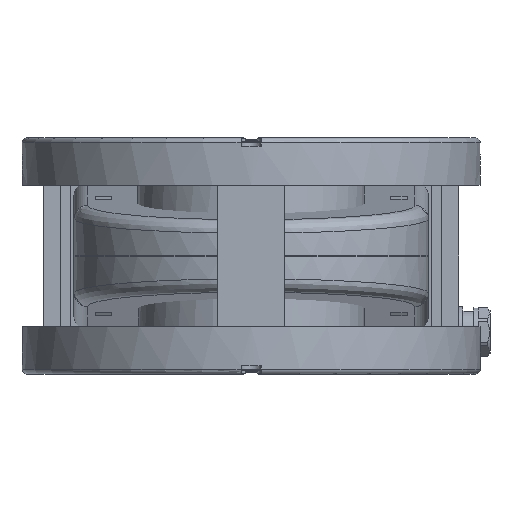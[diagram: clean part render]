
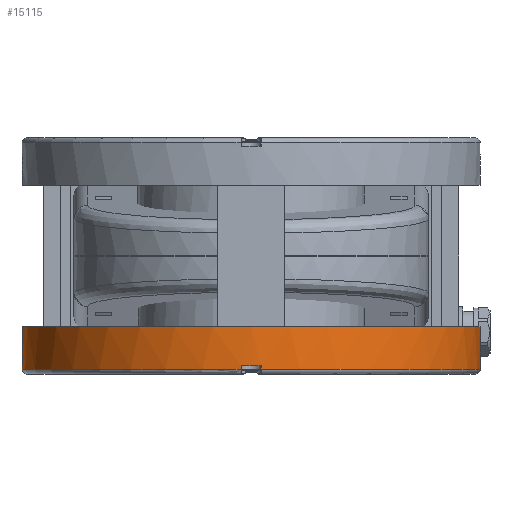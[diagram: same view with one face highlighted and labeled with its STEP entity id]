
A CAD part, front view. The second image highlights one B-rep face of the part: STEP entity #15115.
In plain terms, the highlighted cylindrical face has radius 67.9 mm (diameter 135.8 mm), a full revolution.
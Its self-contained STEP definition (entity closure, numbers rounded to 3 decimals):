
#7762=CYLINDRICAL_SURFACE('',#39519,67.9);
#8419=CIRCLE('',#39513,67.9);
#8420=CIRCLE('',#39515,67.9);
#8421=CIRCLE('',#39516,67.9);
#8422=CIRCLE('',#39517,67.9);
#8423=CIRCLE('',#39518,67.9);
#9348=ELLIPSE('',#39514,68.159,67.9);
#10021=LINE('',#53691,#12113);
#10022=LINE('',#53695,#12114);
#10023=LINE('',#53699,#12115);
#10024=LINE('',#53703,#12116);
#12113=VECTOR('',#43843,1.);
#12114=VECTOR('',#43846,1.);
#12115=VECTOR('',#43849,1.);
#12116=VECTOR('',#43852,1.);
#13877=FACE_BOUND('',#19391,.T.);
#13878=FACE_BOUND('',#19392,.T.);
#15115=ADVANCED_FACE('',(#13877,#13878),#7762,.T.);
#19391=EDGE_LOOP('',(#23453,#23454));
#19392=EDGE_LOOP('',(#23455,#23456,#23457,#23458,#23459,#23460,#23461,#23462));
#23453=ORIENTED_EDGE('',*,*,#34360,.F.);
#23454=ORIENTED_EDGE('',*,*,#34361,.T.);
#23455=ORIENTED_EDGE('',*,*,#34362,.F.);
#23456=ORIENTED_EDGE('',*,*,#34363,.T.);
#23457=ORIENTED_EDGE('',*,*,#34364,.T.);
#23458=ORIENTED_EDGE('',*,*,#34365,.T.);
#23459=ORIENTED_EDGE('',*,*,#34366,.F.);
#23460=ORIENTED_EDGE('',*,*,#34367,.T.);
#23461=ORIENTED_EDGE('',*,*,#34368,.T.);
#23462=ORIENTED_EDGE('',*,*,#34369,.T.);
#30874=VERTEX_POINT('',#53685);
#30875=VERTEX_POINT('',#53686);
#30876=VERTEX_POINT('',#53689);
#30877=VERTEX_POINT('',#53690);
#30878=VERTEX_POINT('',#53692);
#30879=VERTEX_POINT('',#53694);
#30880=VERTEX_POINT('',#53696);
#30881=VERTEX_POINT('',#53698);
#30882=VERTEX_POINT('',#53700);
#30883=VERTEX_POINT('',#53702);
#34360=EDGE_CURVE('',#30874,#30875,#8419,.T.);
#34361=EDGE_CURVE('',#30874,#30875,#9348,.T.);
#34362=EDGE_CURVE('',#30876,#30877,#8420,.T.);
#34363=EDGE_CURVE('',#30876,#30878,#10021,.T.);
#34364=EDGE_CURVE('',#30878,#30879,#8421,.T.);
#34365=EDGE_CURVE('',#30879,#30880,#10022,.T.);
#34366=EDGE_CURVE('',#30881,#30880,#8422,.T.);
#34367=EDGE_CURVE('',#30881,#30882,#10023,.T.);
#34368=EDGE_CURVE('',#30882,#30883,#8423,.T.);
#34369=EDGE_CURVE('',#30883,#30877,#10024,.T.);
#39513=AXIS2_PLACEMENT_3D('',#53684,#43837,#43838);
#39514=AXIS2_PLACEMENT_3D('',#53687,#43839,#43840);
#39515=AXIS2_PLACEMENT_3D('',#53688,#43841,#43842);
#39516=AXIS2_PLACEMENT_3D('',#53693,#43844,#43845);
#39517=AXIS2_PLACEMENT_3D('',#53697,#43847,#43848);
#39518=AXIS2_PLACEMENT_3D('',#53701,#43850,#43851);
#39519=AXIS2_PLACEMENT_3D('',#53704,#43853,#43854);
#43837=DIRECTION('',(1.,0.,0.));
#43838=DIRECTION('',(0.,1.,0.));
#43839=DIRECTION('',(-0.996,-0.087,0.));
#43840=DIRECTION('',(0.087,-0.996,0.));
#43841=DIRECTION('',(-1.,0.,0.));
#43842=DIRECTION('',(0.,0.,-1.));
#43843=DIRECTION('',(-1.,0.,0.));
#43844=DIRECTION('',(1.,0.,0.));
#43845=DIRECTION('',(0.,1.,0.));
#43846=DIRECTION('',(1.,0.,0.));
#43847=DIRECTION('',(-1.,0.,0.));
#43848=DIRECTION('',(0.,0.,-1.));
#43849=DIRECTION('',(-1.,0.,0.));
#43850=DIRECTION('',(1.,0.,0.));
#43851=DIRECTION('',(0.,1.,0.));
#43852=DIRECTION('',(1.,0.,0.));
#43853=DIRECTION('',(1.,0.,0.));
#43854=DIRECTION('',(0.,1.,0.));
#53684=CARTESIAN_POINT('',(14.,0.,0.));
#53685=CARTESIAN_POINT('',(14.,61.784,28.163));
#53686=CARTESIAN_POINT('',(14.,61.784,-28.163));
#53687=CARTESIAN_POINT('',(19.405,0.,0.));
#53688=CARTESIAN_POINT('',(2.5,0.,0.));
#53689=CARTESIAN_POINT('',(2.5,67.834,3.));
#53690=CARTESIAN_POINT('',(2.5,67.834,-3.));
#53691=CARTESIAN_POINT('',(21.4,67.834,3.));
#53692=CARTESIAN_POINT('',(1.5,67.834,3.));
#53693=CARTESIAN_POINT('',(1.5,0.,0.));
#53694=CARTESIAN_POINT('',(1.5,-67.834,3.));
#53695=CARTESIAN_POINT('',(21.4,-67.834,3.));
#53696=CARTESIAN_POINT('',(2.5,-67.834,3.));
#53697=CARTESIAN_POINT('',(2.5,0.,0.));
#53698=CARTESIAN_POINT('',(2.5,-67.834,-3.));
#53699=CARTESIAN_POINT('',(21.4,-67.834,-3.));
#53700=CARTESIAN_POINT('',(1.5,-67.834,-3.));
#53701=CARTESIAN_POINT('',(1.5,0.,0.));
#53702=CARTESIAN_POINT('',(1.5,67.834,-3.));
#53703=CARTESIAN_POINT('',(21.4,67.834,-3.));
#53704=CARTESIAN_POINT('',(21.4,0.,0.));
